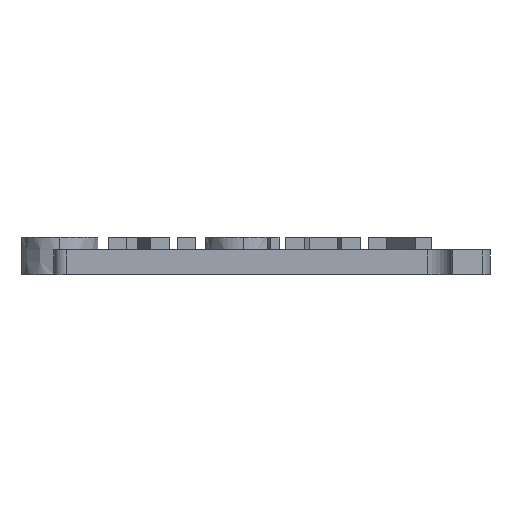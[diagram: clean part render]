
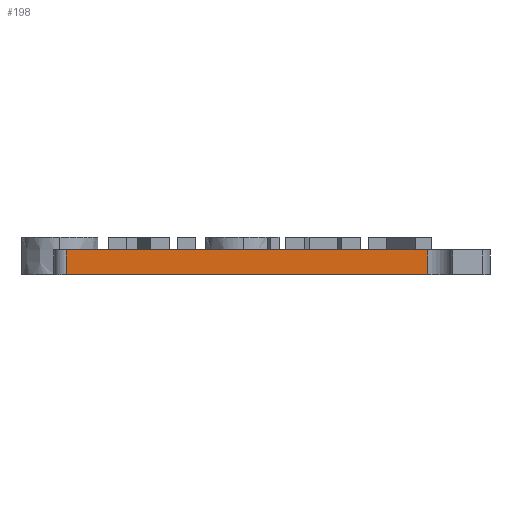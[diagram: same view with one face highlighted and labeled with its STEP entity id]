
A CAD part, front view. The second image highlights one B-rep face of the part: STEP entity #198.
In plain terms, the highlighted planar face has unit normal (0, -1, 0).
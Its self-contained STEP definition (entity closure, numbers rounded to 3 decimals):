
#198=ADVANCED_FACE('',(#440),#441,.T.);
#440=FACE_OUTER_BOUND('',#727,.T.);
#441=PLANE('',#728);
#727=EDGE_LOOP('',(#1358,#1359,#1360,#1361));
#728=AXIS2_PLACEMENT_3D('',#1362,#1363,#1364);
#1358=ORIENTED_EDGE('',*,*,#2064,.T.);
#1359=ORIENTED_EDGE('',*,*,#2138,.T.);
#1360=ORIENTED_EDGE('',*,*,#2122,.F.);
#1361=ORIENTED_EDGE('',*,*,#2139,.T.);
#1362=CARTESIAN_POINT('',(-19.0,-3.0,0.0));
#1363=DIRECTION('',(0.,-1.0,0.0));
#1364=DIRECTION('',(1.0,0.,0.0));
#2064=EDGE_CURVE('',#2533,#2531,#2534,.T.);
#2122=EDGE_CURVE('',#2640,#2642,#2643,.T.);
#2138=EDGE_CURVE('',#2531,#2642,#2665,.T.);
#2139=EDGE_CURVE('',#2640,#2533,#2666,.F.);
#2531=VERTEX_POINT('',#3246);
#2533=VERTEX_POINT('',#3248);
#2534=LINE('',#3249,#3250);
#2640=VERTEX_POINT('',#3488);
#2642=VERTEX_POINT('',#3490);
#2643=LINE('',#3491,#3492);
#2665=LINE('',#3524,#3525);
#2666=LINE('',#3526,#3527);
#3246=CARTESIAN_POINT('',(-5.0,-3.0,0.0));
#3248=CARTESIAN_POINT('',(-34.0,-3.0,0.0));
#3249=CARTESIAN_POINT('',(-19.0,-3.0,0.0));
#3250=VECTOR('',#3930,1.0);
#3488=CARTESIAN_POINT('',(-34.0,-3.0,2.0));
#3490=CARTESIAN_POINT('',(-5.0,-3.0,2.0));
#3491=CARTESIAN_POINT('',(-19.0,-3.0,2.0));
#3492=VECTOR('',#3971,1.0);
#3524=CARTESIAN_POINT('',(-5.0,-3.0,2.0));
#3525=VECTOR('',#3991,1.0);
#3526=CARTESIAN_POINT('',(-34.0,-3.0,0.0));
#3527=VECTOR('',#3992,1.0);
#3930=DIRECTION('',(1.0,0.,0.0));
#3971=DIRECTION('',(1.0,0.,0.0));
#3991=DIRECTION('',(0.0,0.0,1.0));
#3992=DIRECTION('',(0.0,0.0,1.0));
